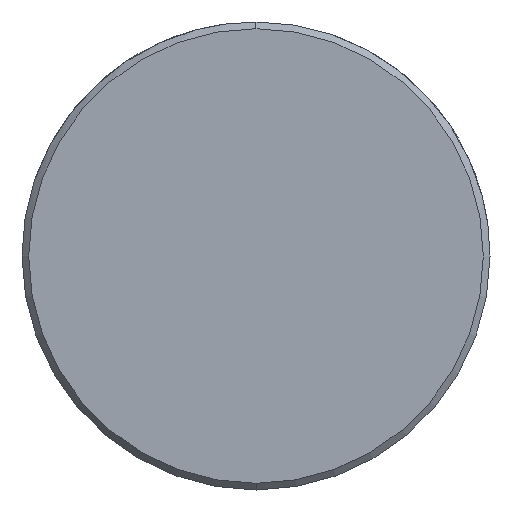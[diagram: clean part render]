
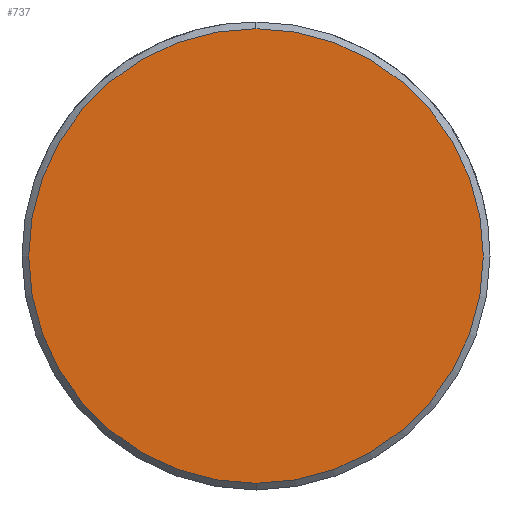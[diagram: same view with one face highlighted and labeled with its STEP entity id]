
A CAD part, left-side view. The second image highlights one B-rep face of the part: STEP entity #737.
In plain terms, the highlighted planar face has unit normal (-1, 0, 0).
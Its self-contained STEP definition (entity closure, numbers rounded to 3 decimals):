
#669=CARTESIAN_POINT('Vertex',(0.,0.,-10.2)) ;
#672=CARTESIAN_POINT('Axis2P3D Location',(0.,0.,0.)) ;
#676=CARTESIAN_POINT('Vertex',(0.,10.2,0.)) ;
#679=CARTESIAN_POINT('Axis2P3D Location',(0.,0.,0.)) ;
#683=CARTESIAN_POINT('Vertex',(0.,0.,10.2)) ;
#705=CARTESIAN_POINT('Axis2P3D Location',(0.,0.,0.)) ;
#709=CARTESIAN_POINT('Vertex',(0.,-10.2,0.)) ;
#712=CARTESIAN_POINT('Axis2P3D Location',(0.,0.,0.)) ;
#726=CARTESIAN_POINT('Axis2P3D Location',(0.,0.,0.)) ;
#673=DIRECTION('Axis2P3D Direction',(1.,0.,-0.)) ;
#680=DIRECTION('Axis2P3D Direction',(1.,0.,-0.)) ;
#706=DIRECTION('Axis2P3D Direction',(1.,0.,-0.)) ;
#713=DIRECTION('Axis2P3D Direction',(1.,0.,-0.)) ;
#727=DIRECTION('Axis2P3D Direction',(1.,0.,-0.)) ;
#728=DIRECTION('Axis2P3D XDirection',(-0.,0.,-1.)) ;
#674=AXIS2_PLACEMENT_3D('Circle Axis2P3D',#672,#673,$) ;
#681=AXIS2_PLACEMENT_3D('Circle Axis2P3D',#679,#680,$) ;
#707=AXIS2_PLACEMENT_3D('Circle Axis2P3D',#705,#706,$) ;
#714=AXIS2_PLACEMENT_3D('Circle Axis2P3D',#712,#713,$) ;
#729=AXIS2_PLACEMENT_3D('Plane Axis2P3D',#726,#727,#728) ;
#732=ORIENTED_EDGE('',*,*,#678,.F.) ;
#733=ORIENTED_EDGE('',*,*,#716,.F.) ;
#734=ORIENTED_EDGE('',*,*,#711,.F.) ;
#735=ORIENTED_EDGE('',*,*,#685,.F.) ;
#737=ADVANCED_FACE('549-18X160',(#736),#730,.F.) ;
#675=CIRCLE('generated circle',#674,10.2) ;
#682=CIRCLE('generated circle',#681,10.2) ;
#708=CIRCLE('generated circle',#707,10.2) ;
#715=CIRCLE('generated circle',#714,10.2) ;
#678=EDGE_CURVE('',#670,#677,#675,.T.) ;
#685=EDGE_CURVE('',#677,#684,#682,.T.) ;
#711=EDGE_CURVE('',#684,#710,#708,.T.) ;
#716=EDGE_CURVE('',#710,#670,#715,.T.) ;
#731=EDGE_LOOP('',(#732,#733,#734,#735)) ;
#736=FACE_OUTER_BOUND('',#731,.T.) ;
#730=PLANE('Plane',#729) ;
#670=VERTEX_POINT('',#669) ;
#677=VERTEX_POINT('',#676) ;
#684=VERTEX_POINT('',#683) ;
#710=VERTEX_POINT('',#709) ;
